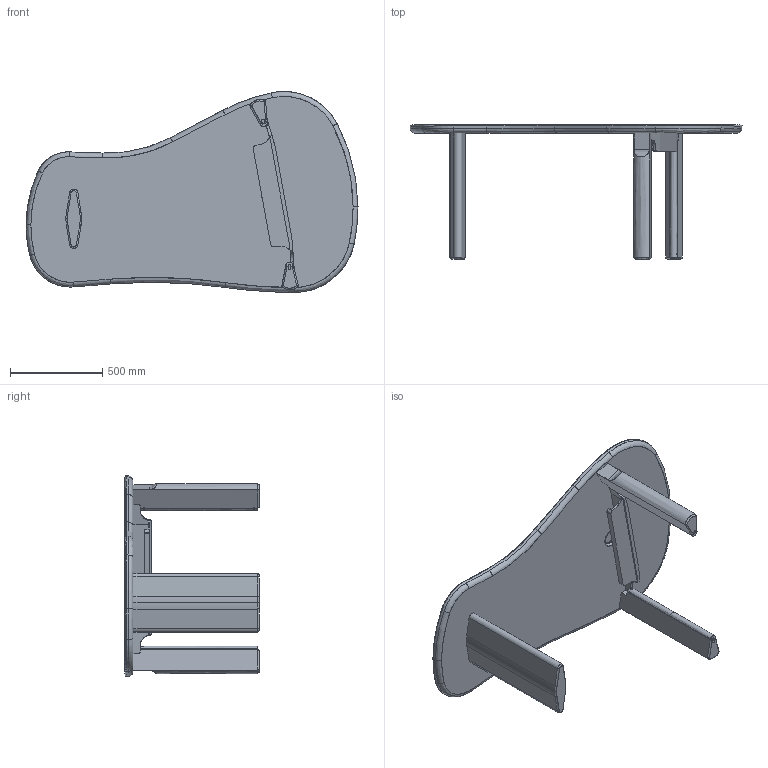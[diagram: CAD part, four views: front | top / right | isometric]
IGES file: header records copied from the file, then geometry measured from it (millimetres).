
Start section: SolidWorks IGES file using analytic representation for surfaces
Global section: file name: C:\Users\Utilizador\Desktop\Sales Files\683\683F Twenty-Five Work Table2.IGS; native system: SolidWorks 2016; preprocessor: SolidWorks 2016; author: Utilizador; date: 221108.082637; units: millimetre
Bounding box: 1799.98 x 730 x 1089.29 mm (x, y, z)
Surface area: 4543776.2 mm2 (no closed solid volume)
Topology: 0 solids, 0 shells, 321 faces, 3239 edges, 3178 vertices
Faces by surface type: revolution 184, bspline 137
